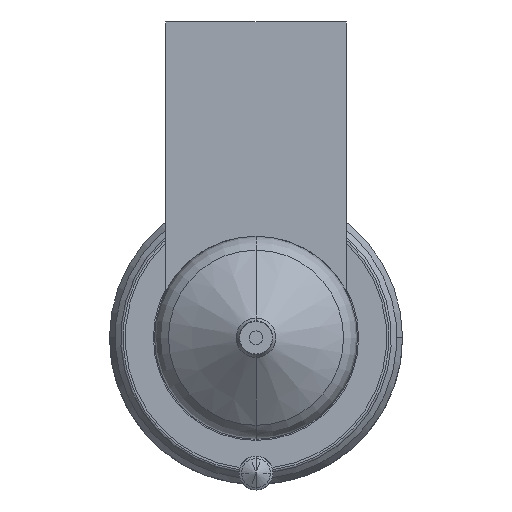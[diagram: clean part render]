
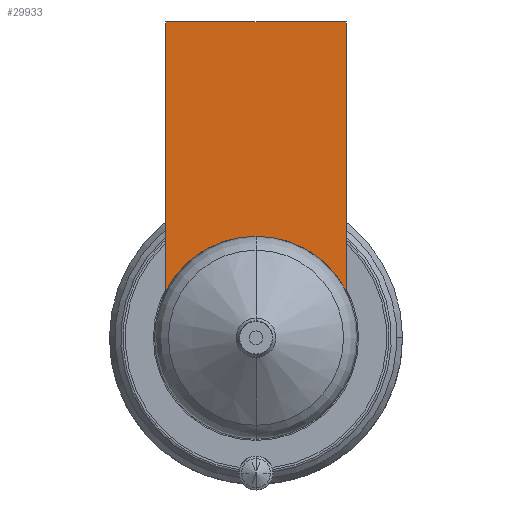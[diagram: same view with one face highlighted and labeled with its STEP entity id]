
A CAD part, front view. The second image highlights one B-rep face of the part: STEP entity #29933.
In plain terms, the highlighted planar face has unit normal (0, -1, 0).
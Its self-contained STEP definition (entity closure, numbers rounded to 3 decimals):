
#29274=DIRECTION('',(1.,0.,0.));
#29275=VECTOR('',#29274,16.);
#29276=CARTESIAN_POINT('',(-8.,-54.,28.));
#29277=LINE('',#29276,#29275);
#29282=CARTESIAN_POINT('',(0.,-54.,0.));
#29283=DIRECTION('',(0.,-1.,0.));
#29284=DIRECTION('',(0.889,0.,0.458));
#29285=AXIS2_PLACEMENT_3D('',#29282,#29283,#29284);
#29290=CARTESIAN_POINT('',(0.,-54.,0.));
#29291=DIRECTION('',(0.,-1.,0.));
#29292=DIRECTION('',(0.,0.,1.));
#29293=AXIS2_PLACEMENT_3D('',#29290,#29291,#29292);
#29319=DIRECTION('',(0.,0.,-1.));
#29320=VECTOR('',#29319,23.877);
#29321=CARTESIAN_POINT('',(-8.,-54.,28.));
#29322=LINE('',#29321,#29320);
#29805=DIRECTION('',(0.,0.,-1.));
#29806=VECTOR('',#29805,23.877);
#29807=CARTESIAN_POINT('',(8.,-54.,28.));
#29808=LINE('',#29807,#29806);
#29858=CARTESIAN_POINT('',(-8.,-54.,28.));
#29859=VERTEX_POINT('',#29858);
#29864=CARTESIAN_POINT('',(8.,-54.,28.));
#29865=VERTEX_POINT('',#29864);
#29868=CARTESIAN_POINT('',(-8.,-54.,4.123));
#29869=VERTEX_POINT('',#29868);
#29872=CARTESIAN_POINT('',(8.,-54.,4.123));
#29873=VERTEX_POINT('',#29872);
#29914=CARTESIAN_POINT('',(0.,-54.,9.));
#29915=VERTEX_POINT('',#29914);
#29916=CARTESIAN_POINT('',(0.,-54.,9.));
#29917=DIRECTION('',(0.,1.,0.));
#29918=DIRECTION('',(0.,0.,-1.));
#29919=AXIS2_PLACEMENT_3D('',#29916,#29917,#29918);
#29920=PLANE('',#29919);
#29922=ORIENTED_EDGE('',*,*,#29921,.F.);
#29924=ORIENTED_EDGE('',*,*,#29923,.T.);
#29926=ORIENTED_EDGE('',*,*,#29925,.T.);
#29928=ORIENTED_EDGE('',*,*,#29927,.T.);
#29930=ORIENTED_EDGE('',*,*,#29929,.T.);
#29931=EDGE_LOOP('',(#29922,#29924,#29926,#29928,#29930));
#29932=FACE_OUTER_BOUND('',#29931,.F.);
#29933=ADVANCED_FACE('',(#29932),#29920,.F.);
#29286=CIRCLE('',#29285,9.);
#29294=CIRCLE('',#29293,9.);
#29921=EDGE_CURVE('',#29859,#29869,#29322,.T.);
#29923=EDGE_CURVE('',#29859,#29865,#29277,.T.);
#29925=EDGE_CURVE('',#29865,#29873,#29808,.T.);
#29927=EDGE_CURVE('',#29873,#29915,#29286,.T.);
#29929=EDGE_CURVE('',#29915,#29869,#29294,.T.);
